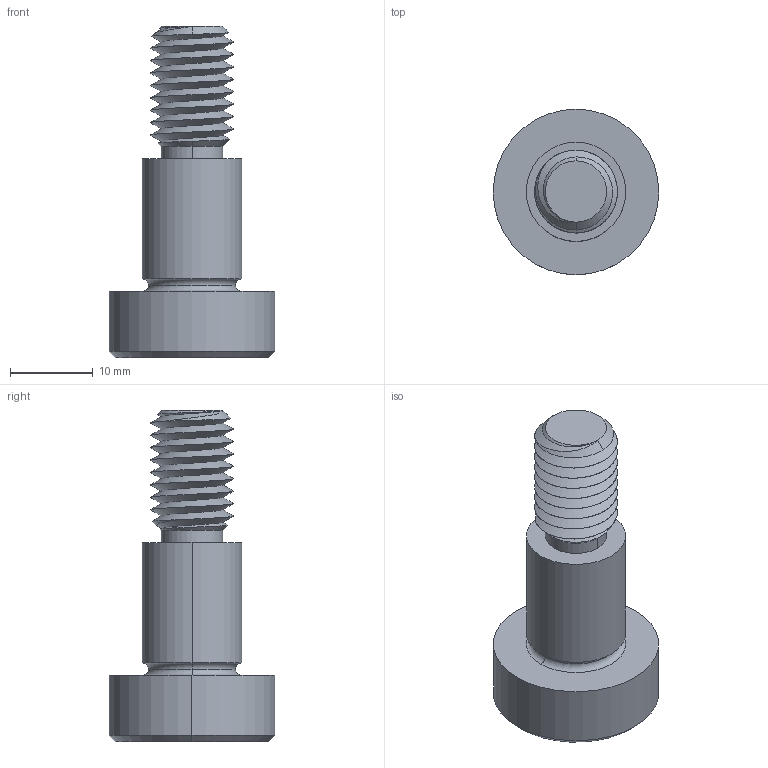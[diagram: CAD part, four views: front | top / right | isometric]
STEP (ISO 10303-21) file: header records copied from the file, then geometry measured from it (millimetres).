
FILE_DESCRIPTION (( 'STEP AP203' ), '1' );
FILE_NAME ('P0130.120-016-B2.step', '2021-11-09T22:02:59', ( '' ), ( '' ), 'SwSTEP 2.0', 'SolidWorks 2019', '' );
FILE_SCHEMA (( 'CONFIG_CONTROL_DESIGN' ));
Length unit declared in the file: millimetre
Products named in the file (1): P0130.120-016-B2
Bounding box: 20 x 20 x 40 mm (x, y, z)
Volume: 4988.1 mm3; surface area: 2660.4 mm2
Topology: 1 solids, 1 shells, 60 faces, 142 edges, 85 vertices
Faces by surface type: cylinder 23, plane 16, cone 15, torus 4, bspline 2
Entity records: 3534 total; most frequent: CARTESIAN_POINT 2187, ORIENTED_EDGE 280, DIRECTION 247, EDGE_CURVE 140, AXIS2_PLACEMENT_3D 99, VERTEX_POINT 85, EDGE_LOOP 63, FACE_OUTER_BOUND 60
